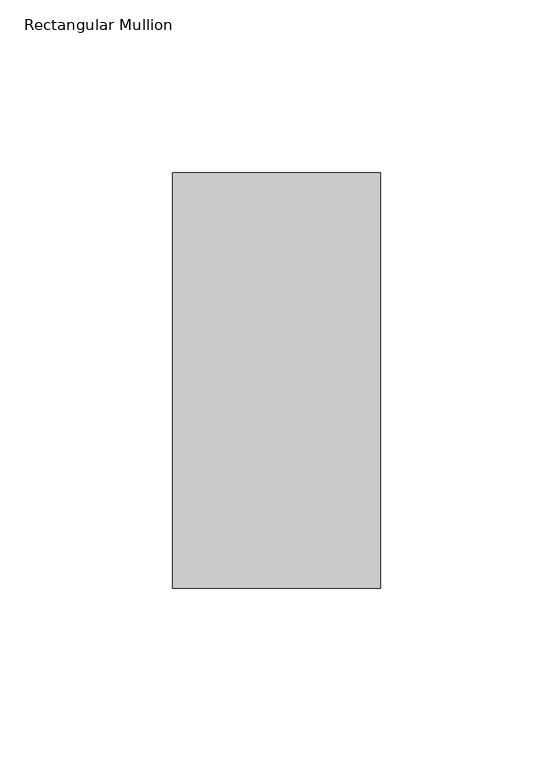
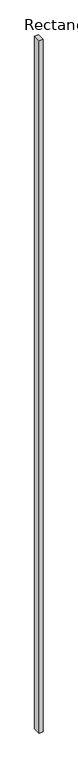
"""IFC4 building model written with IfcOpenShell, lengths in millimetres: member geometry, Rectangular Mullion : Terça."""

from ifc_helpers import new_model, si_unit, frame, origin, place, context, project, spatial, polyline, outline, extrude, source, transform, mapped, element, save


def rectangular_mullion_8b214443(model_context):
    return source(origin(), model_context, "Body", "SweptSolid", [
        extrude(outline(polyline([(30.0, -120.0), (-30.0, -120.0), (-30.0, 0.0), (30.0, 0.0), (30.0, -120.0)])), frame((0.0, 0.0, -11499.6172534), z_axis=(0.0, 0.0, 1.0), x_axis=(1.0, 0.0, 0.0)), (0.0, 0.0, 1.0), 11499.6172534),
    ])


if __name__ == "__main__":
    model = new_model("IFC4")
    model_context = context("Model", 3, world=origin())
    ifc_project = project(units=[si_unit("LENGTHUNIT", "METRE", prefix="MILLI")], contexts=[model_context])
    site = spatial("IfcSite", under=ifc_project)
    building = spatial("IfcBuilding", under=site)
    placement = place(None, origin())
    rectangular_mullion_shape = rectangular_mullion_8b214443(model_context)
    element("IfcMember", 1, ObjectType="Rectangular Mullion : Terça", at=placement, inside=building, context=model_context, shape_type="MappedRepresentation", body=[
        mapped(rectangular_mullion_shape, transform((0.0, 0.0, 0.0), x_axis=(1.0, 0.0, 0.0), y_axis=(0.0, 1.0, 0.0), z_axis=(0.0, 0.0, 1.0))),
    ])
    save(model, "model.ifc")
